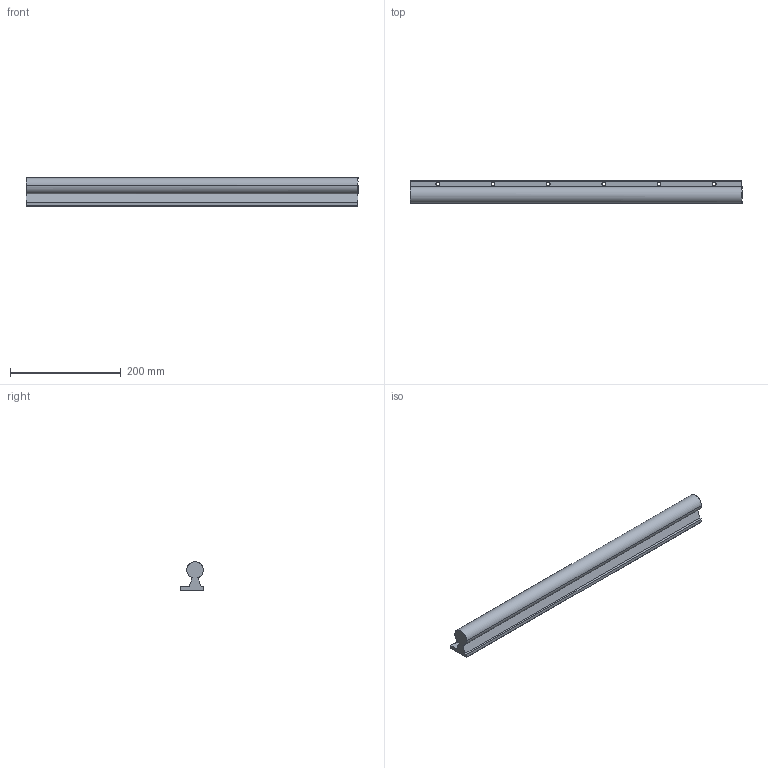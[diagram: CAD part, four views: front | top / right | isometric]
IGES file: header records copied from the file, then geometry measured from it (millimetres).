
Global section: file name: No Iges File Name specified; native system: AutoDesk Inventor R10; preprocessor: AutoDesk Inventor Iges Exporter R10; author: No Author specified; organization: No Organization specified; date: 20101221.090540; units: millimetre
Bounding box: 600 x 41 x 52 mm (x, y, z)
Surface area: 120229.5 mm2 (no closed solid volume)
Topology: 0 solids, 0 shells, 126 faces, 820 edges, 808 vertices
Faces by surface type: bspline 126
